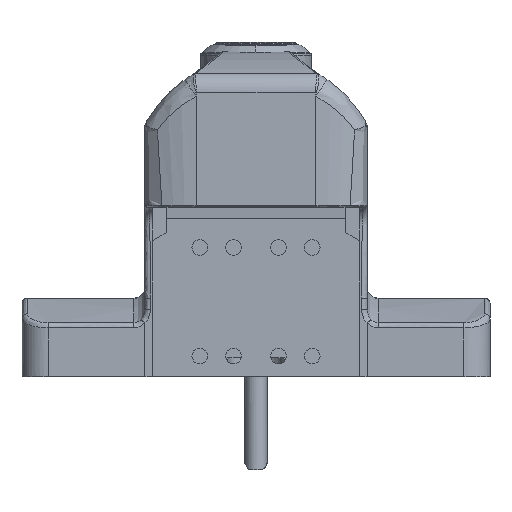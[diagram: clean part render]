
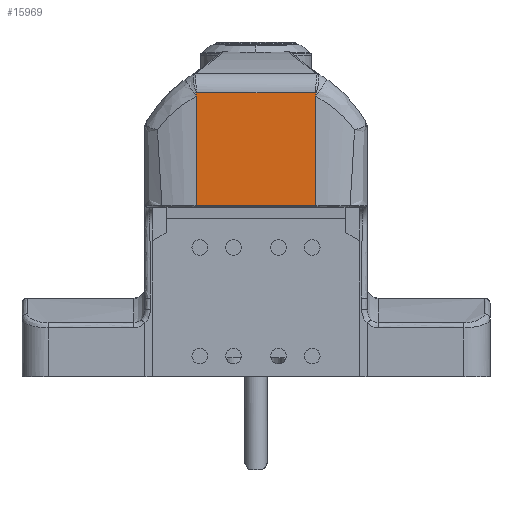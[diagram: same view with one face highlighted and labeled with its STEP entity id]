
A CAD part, left-side view. The second image highlights one B-rep face of the part: STEP entity #15969.
In plain terms, the highlighted planar face has unit normal (-1, 0, 0).
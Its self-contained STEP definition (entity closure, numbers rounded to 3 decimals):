
#117 = CARTESIAN_POINT ( 'NONE',  ( -26., -16., 30.648 ) ) ;
#156 = ORIENTED_EDGE ( 'NONE', *, *, #19940, .T. ) ;
#418 = VERTEX_POINT ( 'NONE', #13151 ) ;
#564 = CARTESIAN_POINT ( 'NONE',  ( -26., 15.902, 31.302 ) ) ;
#1070 = LINE ( 'NONE', #14774, #16096 ) ;
#1080 = B_SPLINE_CURVE_WITH_KNOTS ( 'NONE', 3,
 ( #9300, #9076, #7653, #2226, #8956, #16045, #4108, #15706, #564, #7424, #5996, #20908, #12736, #12396, #10728, #12618, #12502, #17468, #19243, #20802, #2339 ),
 .UNSPECIFIED., .F., .F.,
 ( 4, 1, 1, 1, 1, 2, 2, 1, 1, 1, 1, 1, 2, 2, 4 ),
 ( 0., 0.125, 0.188, 0.219, 0.234, 0.242, 0.25, 0.375, 0.438, 0.469, 0.484, 0.492, 0.496, 0.5, 1. ),
 .UNSPECIFIED. ) ;
#1506 = ORIENTED_EDGE ( 'NONE', *, *, #1783, .T. ) ;
#1558 = EDGE_CURVE ( 'NONE', #10730, #18087, #12101, .T. ) ;
#1783 = EDGE_CURVE ( 'NONE', #15612, #7086, #1070, .T. ) ;
#2045 = LINE ( 'NONE', #14083, #3318 ) ;
#2226 = CARTESIAN_POINT ( 'NONE',  ( -26., 15.889, 31.367 ) ) ;
#2339 = CARTESIAN_POINT ( 'NONE',  ( -26., 16., 30.648 ) ) ;
#3267 = ORIENTED_EDGE ( 'NONE', *, *, #17580, .F. ) ;
#3318 = VECTOR ( 'NONE', #8663, 1000. ) ;
#4108 = CARTESIAN_POINT ( 'NONE',  ( -26., 15.901, 31.308 ) ) ;
#4163 = CARTESIAN_POINT ( 'NONE',  ( -26., -15.866, 31.5 ) ) ;
#5987 = FACE_OUTER_BOUND ( 'NONE', #17867, .T. ) ;
#5996 = CARTESIAN_POINT ( 'NONE',  ( -26., 15.933, 31.153 ) ) ;
#6087 = CARTESIAN_POINT ( 'NONE',  ( -26., -16., 1.5 ) ) ;
#6093 = PLANE ( 'NONE',  #11868 ) ;
#7086 = VERTEX_POINT ( 'NONE', #6087 ) ;
#7424 = CARTESIAN_POINT ( 'NONE',  ( -26., 15.917, 31.23 ) ) ;
#7644 = DIRECTION ( 'NONE',  ( 0., 0., -1. ) ) ;
#7653 = CARTESIAN_POINT ( 'NONE',  ( -26., 15.877, 31.429 ) ) ;
#8663 = DIRECTION ( 'NONE',  ( 0., 0., 1. ) ) ;
#8956 = CARTESIAN_POINT ( 'NONE',  ( -26., 15.895, 31.333 ) ) ;
#9076 = CARTESIAN_POINT ( 'NONE',  ( -26., 15.87, 31.474 ) ) ;
#9172 = CARTESIAN_POINT ( 'NONE',  ( -26., 15.866, 31.5 ) ) ;
#9300 = CARTESIAN_POINT ( 'NONE',  ( -26., 15.866, 31.5 ) ) ;
#9803 = EDGE_CURVE ( 'NONE', #7086, #18087, #2045, .T. ) ;
#9891 = DIRECTION ( 'NONE',  ( 0., -1., 0. ) ) ;
#10078 = VECTOR ( 'NONE', #10655, 1000. ) ;
#10238 = VERTEX_POINT ( 'NONE', #9172 ) ;
#10554 = LINE ( 'NONE', #15630, #10078 ) ;
#10655 = DIRECTION ( 'NONE',  ( 0., 0., 1. ) ) ;
#10688 = ORIENTED_EDGE ( 'NONE', *, *, #9803, .T. ) ;
#10728 = CARTESIAN_POINT ( 'NONE',  ( -26., 15.946, 31.09 ) ) ;
#10730 = VERTEX_POINT ( 'NONE', #14169 ) ;
#11868 = AXIS2_PLACEMENT_3D ( 'NONE', #12725, #21455, #7644 ) ;
#12101 = B_SPLINE_CURVE_WITH_KNOTS ( 'NONE', 3,
 ( #4163, #12557, #15881, #20528, #20630, #20745 ),
 .UNSPECIFIED., .F., .F.,
 ( 4, 2, 4 ),
 ( 0., 0.5, 1. ),
 .UNSPECIFIED. ) ;
#12396 = CARTESIAN_POINT ( 'NONE',  ( -26., 15.946, 31.091 ) ) ;
#12434 = LINE ( 'NONE', #16528, #16145 ) ;
#12502 = CARTESIAN_POINT ( 'NONE',  ( -26., 15.946, 31.089 ) ) ;
#12557 = CARTESIAN_POINT ( 'NONE',  ( -26., -15.885, 31.367 ) ) ;
#12618 = CARTESIAN_POINT ( 'NONE',  ( -26., 15.946, 31.089 ) ) ;
#12645 = ORIENTED_EDGE ( 'NONE', *, *, #1558, .F. ) ;
#12725 = CARTESIAN_POINT ( 'NONE',  ( -26., 16., 1. ) ) ;
#12736 = CARTESIAN_POINT ( 'NONE',  ( -26., 15.945, 31.094 ) ) ;
#13151 = CARTESIAN_POINT ( 'NONE',  ( -26., 16., 30.648 ) ) ;
#13300 = EDGE_CURVE ( 'NONE', #15612, #418, #10554, .T. ) ;
#14083 = CARTESIAN_POINT ( 'NONE',  ( -26., -16., 38.163 ) ) ;
#14169 = CARTESIAN_POINT ( 'NONE',  ( -26., -15.866, 31.5 ) ) ;
#14774 = CARTESIAN_POINT ( 'NONE',  ( -26., 16., 1.5 ) ) ;
#15612 = VERTEX_POINT ( 'NONE', #20163 ) ;
#15630 = CARTESIAN_POINT ( 'NONE',  ( -26., 16., 38.163 ) ) ;
#15706 = CARTESIAN_POINT ( 'NONE',  ( -26., 15.902, 31.303 ) ) ;
#15881 = CARTESIAN_POINT ( 'NONE',  ( -26., -15.919, 31.231 ) ) ;
#15969 = ADVANCED_FACE ( 'NONE', ( #5987 ), #6093, .F. ) ;
#16045 = CARTESIAN_POINT ( 'NONE',  ( -26., 15.899, 31.316 ) ) ;
#16096 = VECTOR ( 'NONE', #21077, 1000. ) ;
#16145 = VECTOR ( 'NONE', #9891, 1000. ) ;
#16528 = CARTESIAN_POINT ( 'NONE',  ( -26., 62.541, 31.5 ) ) ;
#17468 = CARTESIAN_POINT ( 'NONE',  ( -26., 15.946, 31.09 ) ) ;
#17580 = EDGE_CURVE ( 'NONE', #10238, #10730, #12434, .T. ) ;
#17867 = EDGE_LOOP ( 'NONE', ( #3267, #156, #18159, #1506, #10688, #12645 ) ) ;
#18087 = VERTEX_POINT ( 'NONE', #117 ) ;
#18159 = ORIENTED_EDGE ( 'NONE', *, *, #13300, .F. ) ;
#19243 = CARTESIAN_POINT ( 'NONE',  ( -26., 15.977, 30.928 ) ) ;
#19940 = EDGE_CURVE ( 'NONE', #10238, #418, #1080, .T. ) ;
#20163 = CARTESIAN_POINT ( 'NONE',  ( -26., 16., 1.5 ) ) ;
#20528 = CARTESIAN_POINT ( 'NONE',  ( -26., -15.973, 30.947 ) ) ;
#20630 = CARTESIAN_POINT ( 'NONE',  ( -26., -15.995, 30.8 ) ) ;
#20745 = CARTESIAN_POINT ( 'NONE',  ( -26., -16., 30.648 ) ) ;
#20802 = CARTESIAN_POINT ( 'NONE',  ( -26., 15.995, 30.781 ) ) ;
#20908 = CARTESIAN_POINT ( 'NONE',  ( -26., 15.942, 31.107 ) ) ;
#21077 = DIRECTION ( 'NONE',  ( 0., -1., 0. ) ) ;
#21455 = DIRECTION ( 'NONE',  ( 1., 0., 0. ) ) ;
